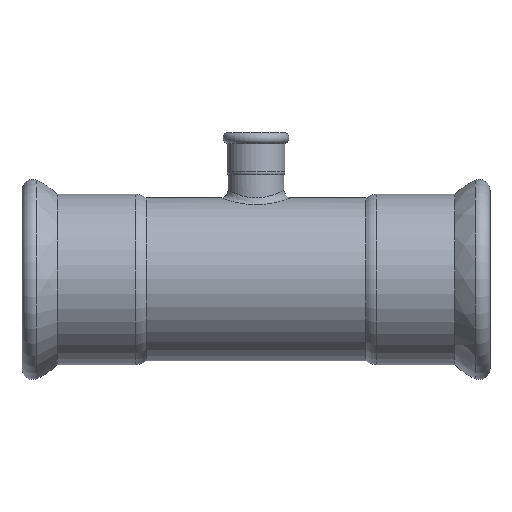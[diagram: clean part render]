
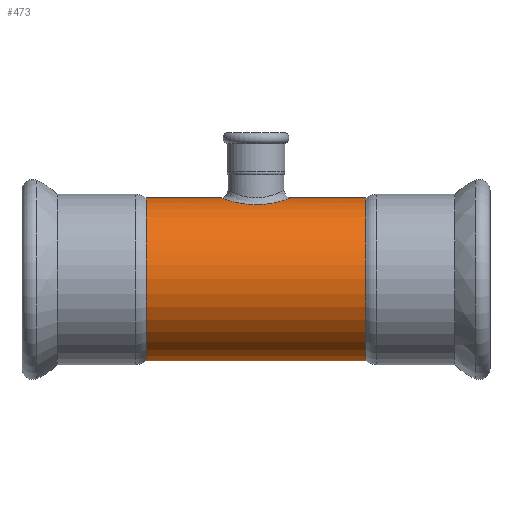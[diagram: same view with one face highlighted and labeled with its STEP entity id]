
A CAD part, front view. The second image highlights one B-rep face of the part: STEP entity #473.
In plain terms, the highlighted cylindrical face has radius 54 mm (diameter 108 mm), a full revolution.
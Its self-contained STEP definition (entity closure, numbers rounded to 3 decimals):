
#20=B_SPLINE_CURVE_WITH_KNOTS($,3,(#1252,#1253,#1254,#1255,#1256,#1257,
#1258,#1259,#1260,#1261,#1262,#1263,#1264,#1265,#1266,#1267,#1268,#1269,
#1270,#1271,#1272,#1273,#1274,#1275,#1276,#1277,#1278),.UNSPECIFIED.,.T.,
 .F.,(4,3,1,1,1,1,1,1,1,1,1,1,1,1,1,1,1,1,1,1,1,1,4),(-11.249,
-11.249,-10.847,-10.446,-10.144,
-10.044,-9.642,-8.839,-8.035,
-7.432,-7.232,-6.428,-5.892,
-5.357,-4.821,-4.285,-3.214,
-2.812,-2.411,-1.607,-0.804,
-0.402,0.),.UNSPECIFIED.);
#38=CYLINDRICAL_SURFACE($,#543,54.);
#64=FACE_BOUND($,#165,.T.);
#65=FACE_BOUND($,#166,.T.);
#107=FACE_OUTER_BOUND($,#164,.T.);
#164=EDGE_LOOP($,(#395));
#165=EDGE_LOOP($,(#396));
#166=EDGE_LOOP($,(#397));
#232=CIRCLE($,#544,54.);
#233=CIRCLE($,#545,54.);
#275=VERTEX_POINT($,#1222);
#277=VERTEX_POINT($,#1281);
#278=VERTEX_POINT($,#1283);
#325=EDGE_CURVE($,#275,#275,#20,.T.);
#326=EDGE_CURVE($,#277,#277,#232,.T.);
#327=EDGE_CURVE($,#278,#278,#233,.T.);
#395=ORIENTED_EDGE($,*,*,#326,.T.);
#396=ORIENTED_EDGE($,*,*,#327,.F.);
#397=ORIENTED_EDGE($,*,*,#325,.F.);
#473=ADVANCED_FACE($,(#107,#64,#65),#38,.T.);
#543=AXIS2_PLACEMENT_3D($,#1280,#673,#674);
#544=AXIS2_PLACEMENT_3D($,#1282,#675,#676);
#545=AXIS2_PLACEMENT_3D($,#1284,#677,#678);
#673=DIRECTION('center_axis',(1.,0.,0.));
#674=DIRECTION('ref_axis',(0.,1.,0.));
#675=DIRECTION('center_axis',(1.,0.,0.));
#676=DIRECTION('ref_axis',(0.,1.,0.));
#677=DIRECTION('center_axis',(1.,0.,0.));
#678=DIRECTION('ref_axis',(0.,1.,0.));
#1222=CARTESIAN_POINT('',(-155.,21.508,49.532));
#1252=CARTESIAN_POINT('Ctrl Pts',(-155.,21.509,49.531));
#1253=CARTESIAN_POINT('Ctrl Pts',(-155.,21.509,49.531));
#1254=CARTESIAN_POINT('Ctrl Pts',(-155.,21.509,49.531));
#1255=CARTESIAN_POINT('Ctrl Pts',(-155.,21.509,49.531));
#1256=CARTESIAN_POINT('Ctrl Pts',(-156.765,21.509,49.531));
#1257=CARTESIAN_POINT('Ctrl Pts',(-160.338,21.134,49.697));
#1258=CARTESIAN_POINT('Ctrl Pts',(-164.9,19.66,50.307));
#1259=CARTESIAN_POINT('Ctrl Pts',(-167.939,18.013,50.915));
#1260=CARTESIAN_POINT('Ctrl Pts',(-170.713,16.096,51.558));
#1261=CARTESIAN_POINT('Ctrl Pts',(-174.733,12.432,52.659));
#1262=CARTESIAN_POINT('Ctrl Pts',(-178.687,5.035,54.064));
#1263=CARTESIAN_POINT('Ctrl Pts',(-178.702,-4.176,54.069));
#1264=CARTESIAN_POINT('Ctrl Pts',(-175.919,-10.21,53.082));
#1265=CARTESIAN_POINT('Ctrl Pts',(-171.879,-15.408,51.844));
#1266=CARTESIAN_POINT('Ctrl Pts',(-166.55,-19.314,50.472));
#1267=CARTESIAN_POINT('Ctrl Pts',(-158.62,-21.584,49.499));
#1268=CARTESIAN_POINT('Ctrl Pts',(-151.407,-21.594,49.497));
#1269=CARTESIAN_POINT('Ctrl Pts',(-144.594,-19.637,50.328));
#1270=CARTESIAN_POINT('Ctrl Pts',(-136.844,-14.797,52.089));
#1271=CARTESIAN_POINT('Ctrl Pts',(-132.245,-7.618,53.735));
#1272=CARTESIAN_POINT('Ctrl Pts',(-131.297,-0.002,
54.072));
#1273=CARTESIAN_POINT('Ctrl Pts',(-132.106,6.499,53.781));
#1274=CARTESIAN_POINT('Ctrl Pts',(-136.042,13.904,52.382));
#1275=CARTESIAN_POINT('Ctrl Pts',(-142.994,18.971,50.589));
#1276=CARTESIAN_POINT('Ctrl Pts',(-149.655,21.135,49.697));
#1277=CARTESIAN_POINT('Ctrl Pts',(-153.235,21.509,49.531));
#1278=CARTESIAN_POINT('Ctrl Pts',(-155.,21.509,49.531));
#1280=CARTESIAN_POINT('Origin',(-218.9,0.,0.));
#1281=CARTESIAN_POINT('',(-227.8,54.,0.));
#1282=CARTESIAN_POINT('Origin',(-227.8,0.,0.));
#1283=CARTESIAN_POINT('',(-82.2,54.,0.));
#1284=CARTESIAN_POINT('Origin',(-82.2,0.,0.));
